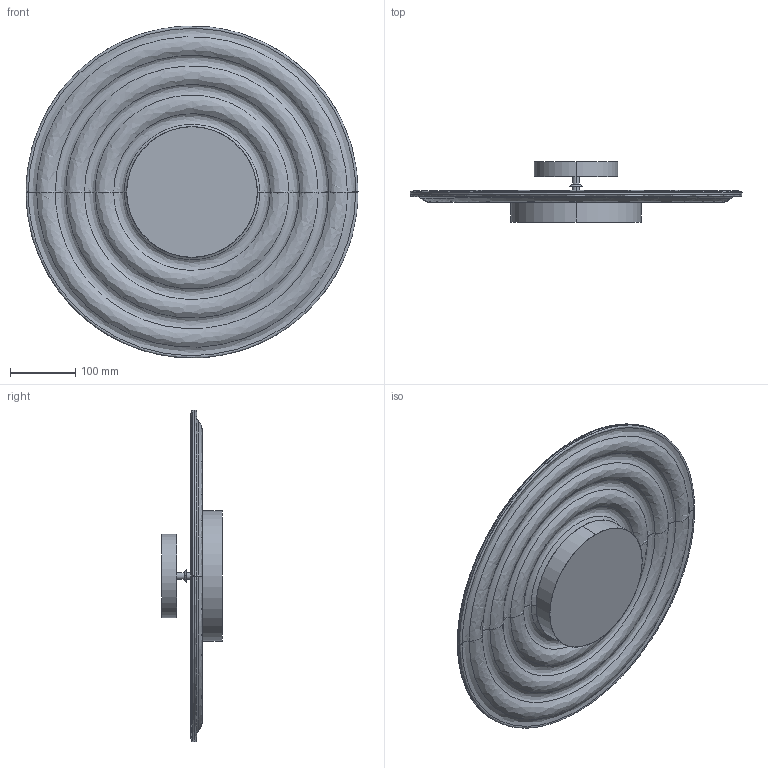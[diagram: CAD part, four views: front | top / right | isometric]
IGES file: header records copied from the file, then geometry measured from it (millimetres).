
Start section: SolidWorks IGES file using analytic representation for surfaces
Global section: file name: C:\Users\adrian\Desktop\MODELADOS USA\RANG\A1093_RANG.IGS; native system: SolidWorks 2023; preprocessor: SolidWorks 2023; author: adrian; date: 260605.091300; units: inch
Bounding box: 508.32 x 92.56 x 508.32 mm (x, y, z)
Surface area: 582229.2 mm2 (no closed solid volume)
Topology: 0 solids, 0 shells, 66 faces, 576 edges, 576 vertices
Faces by surface type: bspline 52, revolution 14
